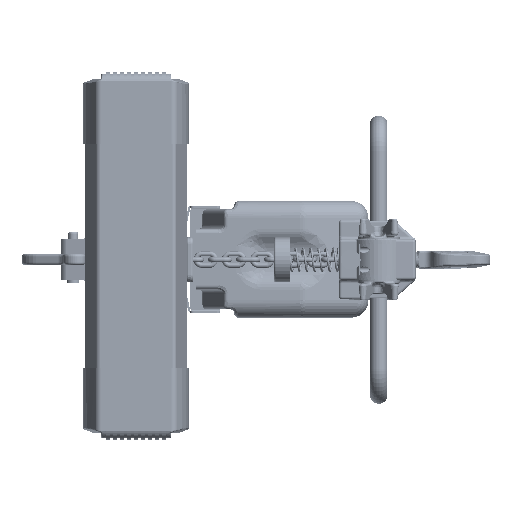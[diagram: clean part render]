
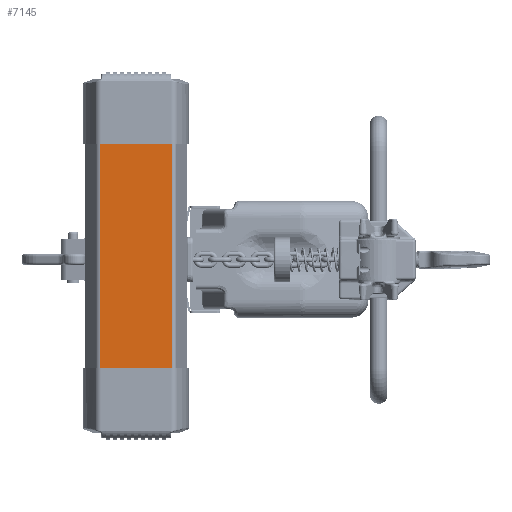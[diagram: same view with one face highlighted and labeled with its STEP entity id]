
A CAD part, left-side view. The second image highlights one B-rep face of the part: STEP entity #7145.
In plain terms, the highlighted planar face has unit normal (-1, 0, 0).
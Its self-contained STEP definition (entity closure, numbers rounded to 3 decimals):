
#7145=ADVANCED_FACE('',(#12851),#11344,.T.);
#11344=PLANE('',#72101);
#12851=FACE_OUTER_BOUND('',#16927,.T.);
#16927=EDGE_LOOP('',(#26002,#26003,#26004,#26005));
#26002=ORIENTED_EDGE('',*,*,#52051,.T.);
#26003=ORIENTED_EDGE('',*,*,#52134,.F.);
#26004=ORIENTED_EDGE('',*,*,#52114,.T.);
#26005=ORIENTED_EDGE('',*,*,#52058,.T.);
#45489=VERTEX_POINT('',#99224);
#45490=VERTEX_POINT('',#99226);
#45495=VERTEX_POINT('',#99239);
#45542=VERTEX_POINT('',#99335);
#52051=EDGE_CURVE('',#45490,#45489,#62141,.T.);
#52058=EDGE_CURVE('',#45495,#45490,#62145,.T.);
#52114=EDGE_CURVE('',#45542,#45495,#62189,.T.);
#52134=EDGE_CURVE('',#45542,#45489,#62199,.T.);
#62141=LINE('',#99225,#67058);
#62145=LINE('',#99238,#67062);
#62189=LINE('',#99349,#67106);
#62199=LINE('',#99391,#67116);
#67058=VECTOR('',#79890,1.);
#67062=VECTOR('',#79902,1.);
#67106=VECTOR('',#79972,1.);
#67116=VECTOR('',#80018,1.);
#72101=AXIS2_PLACEMENT_3D('',#99846,#80370,#80371);
#79890=DIRECTION('',(0.,1.,0.));
#79902=DIRECTION('',(0.,0.,1.));
#79972=DIRECTION('',(0.,-1.,0.));
#80018=DIRECTION('',(0.,0.,1.));
#80370=DIRECTION('',(-1.,0.,0.));
#80371=DIRECTION('',(0.,1.,0.));
#99224=CARTESIAN_POINT('',(295.435,348.936,211.4));
#99225=CARTESIAN_POINT('',(295.435,225.117,211.4));
#99226=CARTESIAN_POINT('',(295.435,247.299,211.4));
#99238=CARTESIAN_POINT('',(295.435,247.299,-3572.6));
#99239=CARTESIAN_POINT('',(295.435,247.299,-107.1));
#99335=CARTESIAN_POINT('',(295.435,348.936,-107.1));
#99349=CARTESIAN_POINT('',(295.435,225.117,-107.1));
#99391=CARTESIAN_POINT('',(295.435,348.936,-3572.6));
#99846=CARTESIAN_POINT('',(295.435,348.936,-3572.6));
